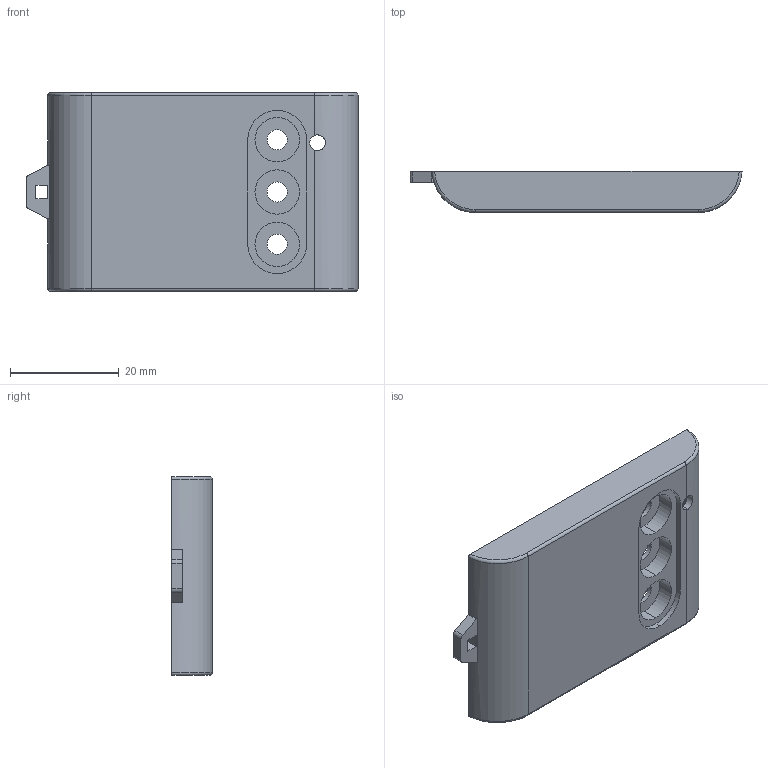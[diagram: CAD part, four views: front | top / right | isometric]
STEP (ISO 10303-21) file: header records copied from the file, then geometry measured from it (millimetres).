
FILE_DESCRIPTION (( 'STEP AP214' ), '1' );
FILE_NAME ('Tapa PP43.STEP', '2016-10-12T14:39:50', ( 'aaa' ), ( '' ), 'SwSTEP 2.0', 'SolidWorks 2013', '' );
FILE_SCHEMA (( 'AUTOMOTIVE_DESIGN' ));
Length unit declared in the file: millimetre
Products named in the file (1): Tapa PP43
Bounding box: 61 x 7.5 x 36.5 mm (x, y, z)
Volume: 4715.4 mm3; surface area: 6775.9 mm2
Topology: 1 solids, 1 shells, 90 faces, 242 edges, 158 vertices
Faces by surface type: plane 46, cylinder 40, torus 4
Entity records: 2954 total; most frequent: CARTESIAN_POINT 563, DIRECTION 514, ORIENTED_EDGE 484, EDGE_CURVE 242, AXIS2_PLACEMENT_3D 189, VERTEX_POINT 158, LINE 136, VECTOR 136
